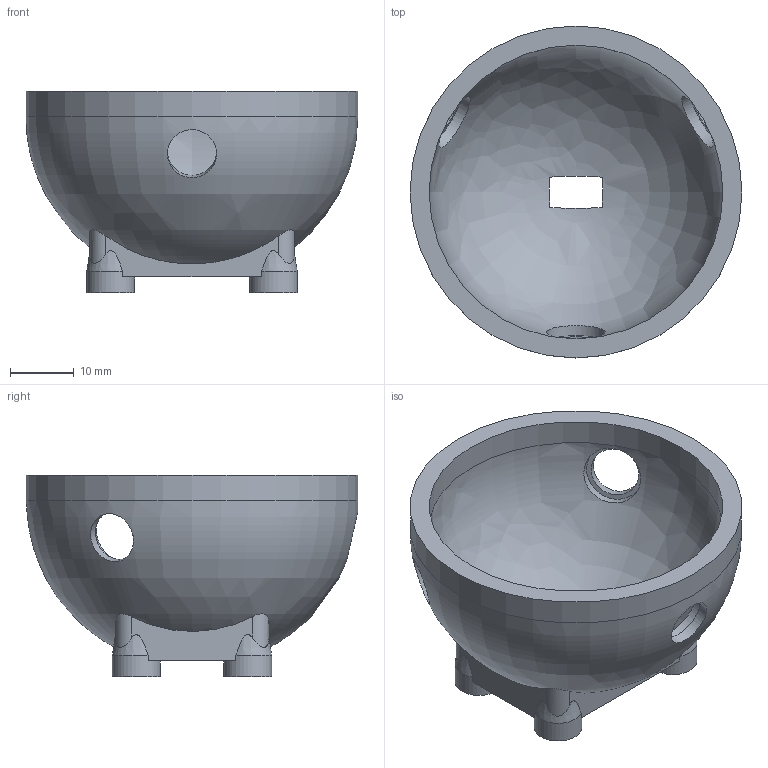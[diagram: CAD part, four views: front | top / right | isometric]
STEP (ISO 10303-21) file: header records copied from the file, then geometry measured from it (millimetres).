
FILE_DESCRIPTION(('Open CASCADE Model'),'2;1');
FILE_NAME('Open CASCADE Shape Model','2026-05-31T19:43:11',('Author'),( 'Open CASCADE'),'Open CASCADE STEP processor 7.6','Open CASCADE 7.6' ,'Unknown');
FILE_SCHEMA(('AP242_MANAGED_MODEL_BASED_3D_ENGINEERING_MIM_LF. {1 0 10303 442 1 1 4 }'));
Length unit declared in the file: millimetre
Products named in the file (1): Open CASCADE STEP translator 7.6 5
Bounding box: 52 x 52 x 31.6 mm (x, y, z)
Volume: 14101.4 mm3; surface area: 10169.2 mm2
Topology: 1 solids, 1 shells, 56 faces, 138 edges, 92 vertices
Faces by surface type: cylinder 24, plane 22, bspline 4, cone 4, revolution 2
Full cylindrical faces by diameter (mm): 3.5 x4, 7.5 x4, 7.7 x3, 9.2 x3, 46 x1, 52 x1
Entity records: 8198 total; most frequent: CARTESIAN_POINT 5491, DIRECTION 474, ORIENTED_EDGE 276, PCURVE 276, DEFINITIONAL_REPRESENTATION 276, LINE 230, VECTOR 230, EDGE_CURVE 138
